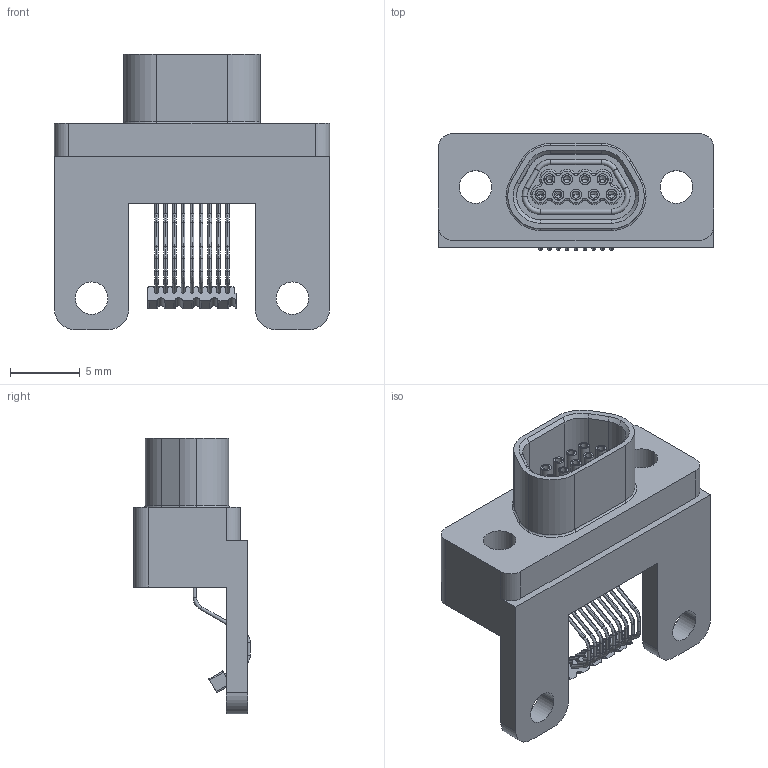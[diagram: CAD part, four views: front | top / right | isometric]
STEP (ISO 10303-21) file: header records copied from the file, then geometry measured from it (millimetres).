
FILE_DESCRIPTION (( 'STEP AP214' ), '1' );
FILE_NAME ('A99204-009 REV A.STEP', '2016-02-22T11:44:19', ( '' ), ( '' ), 'SwSTEP 2.0', 'SolidWorks 2015', '' );
FILE_SCHEMA (( 'AUTOMOTIVE_DESIGN' ));
Length unit declared in the file: inch
Products named in the file (1): A99204-009 REV A
Bounding box: 19.68 x 8.34 x 19.71 mm (x, y, z)
Volume: 1069.9 mm3; surface area: 1518 mm2
Topology: 1 solids, 3 shells, 598 faces, 1515 edges, 942 vertices
Faces by surface type: cylinder 228, plane 228, torus 85, bspline 34, cone 23
Entity records: 20227 total; most frequent: CARTESIAN_POINT 5600, DIRECTION 3143, ORIENTED_EDGE 2994, EDGE_CURVE 1497, AXIS2_PLACEMENT_3D 1151, VERTEX_POINT 942, LINE 841, VECTOR 841
